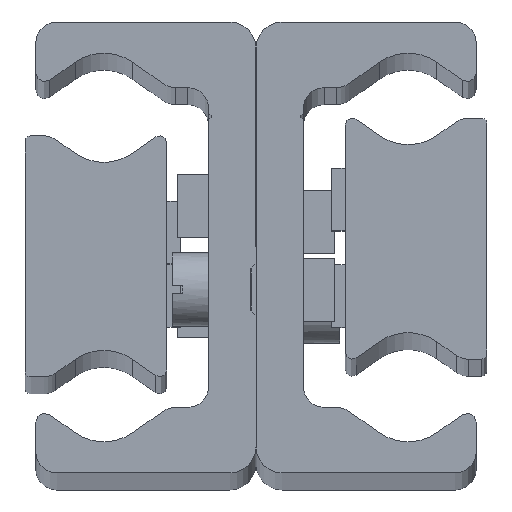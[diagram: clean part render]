
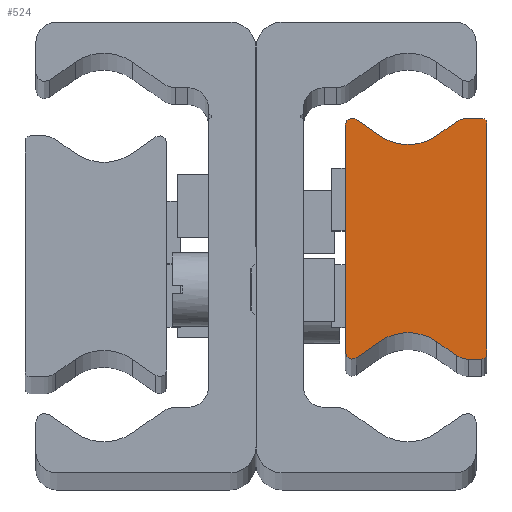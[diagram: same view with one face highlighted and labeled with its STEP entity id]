
A CAD part, top view. The second image highlights one B-rep face of the part: STEP entity #524.
In plain terms, the highlighted planar face has unit normal (0, 0, 1) as drawn and (0, 0, -1) by its records, which use the part's own axes.
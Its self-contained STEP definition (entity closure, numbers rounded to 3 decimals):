
#524 = ADVANCED_FACE( '', ( #1142 ), #1143, .F. );
#1142 = FACE_OUTER_BOUND( '', #1816, .T. );
#1143 = PLANE( '', #1817 );
#1816 = EDGE_LOOP( '', ( #3043, #3044, #3045, #3046, #3047, #3048, #3049, #3050, #3051, #3052, #3053, #3054, #3055, #3056, #3057, #3058 ) );
#1817 = AXIS2_PLACEMENT_3D( '', #3059, #3060, #3061 );
#3043 = ORIENTED_EDGE( '', *, *, #3891, .F. );
#3044 = ORIENTED_EDGE( '', *, *, #3831, .F. );
#3045 = ORIENTED_EDGE( '', *, *, #3793, .F. );
#3046 = ORIENTED_EDGE( '', *, *, #3892, .F. );
#3047 = ORIENTED_EDGE( '', *, *, #3714, .F. );
#3048 = ORIENTED_EDGE( '', *, *, #3643, .T. );
#3049 = ORIENTED_EDGE( '', *, *, #3506, .F. );
#3050 = ORIENTED_EDGE( '', *, *, #3893, .F. );
#3051 = ORIENTED_EDGE( '', *, *, #3498, .F. );
#3052 = ORIENTED_EDGE( '', *, *, #3812, .F. );
#3053 = ORIENTED_EDGE( '', *, *, #3803, .F. );
#3054 = ORIENTED_EDGE( '', *, *, #3894, .T. );
#3055 = ORIENTED_EDGE( '', *, *, #3895, .F. );
#3056 = ORIENTED_EDGE( '', *, *, #3711, .F. );
#3057 = ORIENTED_EDGE( '', *, *, #3774, .F. );
#3058 = ORIENTED_EDGE( '', *, *, #3868, .F. );
#3059 = CARTESIAN_POINT( '', ( 0.5, -11., -930. ) );
#3060 = DIRECTION( '', ( 0., 0., 1. ) );
#3061 = DIRECTION( '', ( 1., 0., 0. ) );
#3498 = EDGE_CURVE( '', #4094, #4096, #4097, .T. );
#3506 = EDGE_CURVE( '', #4108, #4110, #4111, .T. );
#3643 = EDGE_CURVE( '', #4342, #4110, #4343, .T. );
#3711 = EDGE_CURVE( '', #4444, #4446, #4447, .T. );
#3714 = EDGE_CURVE( '', #4342, #4450, #4451, .T. );
#3774 = EDGE_CURVE( '', #4536, #4444, #4538, .T. );
#3793 = EDGE_CURVE( '', #4560, #4562, #4563, .T. );
#3803 = EDGE_CURVE( '', #4574, #4576, #4577, .T. );
#3812 = EDGE_CURVE( '', #4576, #4094, #4588, .T. );
#3831 = EDGE_CURVE( '', #4562, #4614, #4615, .T. );
#3868 = EDGE_CURVE( '', #4661, #4536, #4663, .T. );
#3891 = EDGE_CURVE( '', #4614, #4661, #4688, .T. );
#3892 = EDGE_CURVE( '', #4450, #4560, #4689, .T. );
#3893 = EDGE_CURVE( '', #4096, #4108, #4690, .T. );
#3894 = EDGE_CURVE( '', #4574, #4691, #4692, .T. );
#3895 = EDGE_CURVE( '', #4446, #4691, #4693, .T. );
#4094 = VERTEX_POINT( '', #4929 );
#4096 = VERTEX_POINT( '', #4932 );
#4097 = LINE( '', #4933, #4934 );
#4108 = VERTEX_POINT( '', #4950 );
#4110 = VERTEX_POINT( '', #4953 );
#4111 = LINE( '', #4954, #4955 );
#4342 = VERTEX_POINT( '', #5238 );
#4343 = CIRCLE( '', #5239, 4.763 );
#4444 = VERTEX_POINT( '', #5378 );
#4446 = VERTEX_POINT( '', #5381 );
#4447 = CIRCLE( '', #5382, 2. );
#4450 = VERTEX_POINT( '', #5386 );
#4451 = LINE( '', #5387, #5388 );
#4536 = VERTEX_POINT( '', #5498 );
#4538 = LINE( '', #5501, #5502 );
#4560 = VERTEX_POINT( '', #5529 );
#4562 = VERTEX_POINT( '', #5532 );
#4563 = LINE( '', #5533, #5534 );
#4574 = VERTEX_POINT( '', #5548 );
#4576 = VERTEX_POINT( '', #5551 );
#4577 = LINE( '', #5552, #5553 );
#4588 = CIRCLE( '', #5566, 0.668 );
#4614 = VERTEX_POINT( '', #5594 );
#4615 = CIRCLE( '', #5595, 0.5 );
#4661 = VERTEX_POINT( '', #5651 );
#4663 = CIRCLE( '', #5654, 0.5 );
#4688 = LINE( '', #5685, #5686 );
#4689 = CIRCLE( '', #5687, 2. );
#4690 = CIRCLE( '', #5688, 0.668 );
#4691 = VERTEX_POINT( '', #5689 );
#4692 = CIRCLE( '', #5690, 4.763 );
#4693 = LINE( '', #5691, #5692 );
#4929 = CARTESIAN_POINT( '', ( 13.5, -10.832, -930. ) );
#4932 = CARTESIAN_POINT( '', ( 13.5, 10.832, -930. ) );
#4933 = CARTESIAN_POINT( '', ( 13.5, -10.832, -930. ) );
#4934 = VECTOR( '', #5901, 1000. );
#4950 = CARTESIAN_POINT( '', ( 12.449, 11.379, -930. ) );
#4953 = CARTESIAN_POINT( '', ( 10.232, 9.827, -930. ) );
#4954 = CARTESIAN_POINT( '', ( 12.449, 11.379, -930. ) );
#4955 = VECTOR( '', #5908, 1000. );
#5238 = CARTESIAN_POINT( '', ( 4.768, 9.827, -930. ) );
#5239 = AXIS2_PLACEMENT_3D( '', #6123, #6124, #6125 );
#5378 = CARTESIAN_POINT( '', ( 1.748, -11.5, -930. ) );
#5381 = CARTESIAN_POINT( '', ( 2.895, -11.138, -930. ) );
#5382 = AXIS2_PLACEMENT_3D( '', #6207, #6208, #6209 );
#5386 = CARTESIAN_POINT( '', ( 2.895, 11.138, -930. ) );
#5387 = CARTESIAN_POINT( '', ( 4.768, 9.827, -930. ) );
#5388 = VECTOR( '', #6211, 1000. );
#5498 = CARTESIAN_POINT( '', ( 0.5, -11.5, -930. ) );
#5501 = CARTESIAN_POINT( '', ( 0.5, -11.5, -930. ) );
#5502 = VECTOR( '', #6283, 1000. );
#5529 = CARTESIAN_POINT( '', ( 1.748, 11.5, -930. ) );
#5532 = CARTESIAN_POINT( '', ( 0.5, 11.5, -930. ) );
#5533 = CARTESIAN_POINT( '', ( 1.748, 11.5, -930. ) );
#5534 = VECTOR( '', #6305, 1000. );
#5548 = CARTESIAN_POINT( '', ( 10.232, -9.827, -930. ) );
#5551 = CARTESIAN_POINT( '', ( 12.449, -11.379, -930. ) );
#5552 = CARTESIAN_POINT( '', ( 10.232, -9.827, -930. ) );
#5553 = VECTOR( '', #6316, 1000. );
#5566 = AXIS2_PLACEMENT_3D( '', #6325, #6326, #6327 );
#5594 = CARTESIAN_POINT( '', ( 0., 11., -930. ) );
#5595 = AXIS2_PLACEMENT_3D( '', #6354, #6355, #6356 );
#5651 = CARTESIAN_POINT( '', ( 0., -11., -930. ) );
#5654 = AXIS2_PLACEMENT_3D( '', #6392, #6393, #6394 );
#5685 = CARTESIAN_POINT( '', ( 0., 11., -930. ) );
#5686 = VECTOR( '', #6410, 1000. );
#5687 = AXIS2_PLACEMENT_3D( '', #6411, #6412, #6413 );
#5688 = AXIS2_PLACEMENT_3D( '', #6414, #6415, #6416 );
#5689 = CARTESIAN_POINT( '', ( 4.768, -9.827, -930. ) );
#5690 = AXIS2_PLACEMENT_3D( '', #6417, #6418, #6419 );
#5691 = CARTESIAN_POINT( '', ( 2.895, -11.138, -930. ) );
#5692 = VECTOR( '', #6420, 1000. );
#5901 = DIRECTION( '', ( 0., 1., 0. ) );
#5908 = DIRECTION( '', ( -0.819, -0.574, 0. ) );
#6123 = CARTESIAN_POINT( '', ( 7.5, 13.729, -930. ) );
#6124 = DIRECTION( '', ( 0., 0., 1. ) );
#6125 = DIRECTION( '', ( 1., 0., 0. ) );
#6207 = CARTESIAN_POINT( '', ( 1.748, -9.5, -930. ) );
#6208 = DIRECTION( '', ( 0., 0., 1. ) );
#6209 = DIRECTION( '', ( 1., 0., 0. ) );
#6211 = DIRECTION( '', ( -0.819, 0.574, 0. ) );
#6283 = DIRECTION( '', ( 1., 0., 0. ) );
#6305 = DIRECTION( '', ( -1., 0., 0. ) );
#6316 = DIRECTION( '', ( 0.819, -0.574, 0. ) );
#6325 = CARTESIAN_POINT( '', ( 12.832, -10.832, -930. ) );
#6326 = DIRECTION( '', ( 0., 0., 1. ) );
#6327 = DIRECTION( '', ( 1., 0., 0. ) );
#6354 = CARTESIAN_POINT( '', ( 0.5, 11., -930. ) );
#6355 = DIRECTION( '', ( 0., 0., 1. ) );
#6356 = DIRECTION( '', ( 1., 0., 0. ) );
#6392 = CARTESIAN_POINT( '', ( 0.5, -11., -930. ) );
#6393 = DIRECTION( '', ( 0., 0., 1. ) );
#6394 = DIRECTION( '', ( 1., 0., 0. ) );
#6410 = DIRECTION( '', ( 0., -1., 0. ) );
#6411 = CARTESIAN_POINT( '', ( 1.748, 9.5, -930. ) );
#6412 = DIRECTION( '', ( 0., 0., 1. ) );
#6413 = DIRECTION( '', ( 1., 0., 0. ) );
#6414 = CARTESIAN_POINT( '', ( 12.832, 10.832, -930. ) );
#6415 = DIRECTION( '', ( 0., 0., 1. ) );
#6416 = DIRECTION( '', ( 1., 0., 0. ) );
#6417 = CARTESIAN_POINT( '', ( 7.5, -13.729, -930. ) );
#6418 = DIRECTION( '', ( 0., 0., 1. ) );
#6419 = DIRECTION( '', ( 1., 0., 0. ) );
#6420 = DIRECTION( '', ( 0.819, 0.574, 0. ) );
